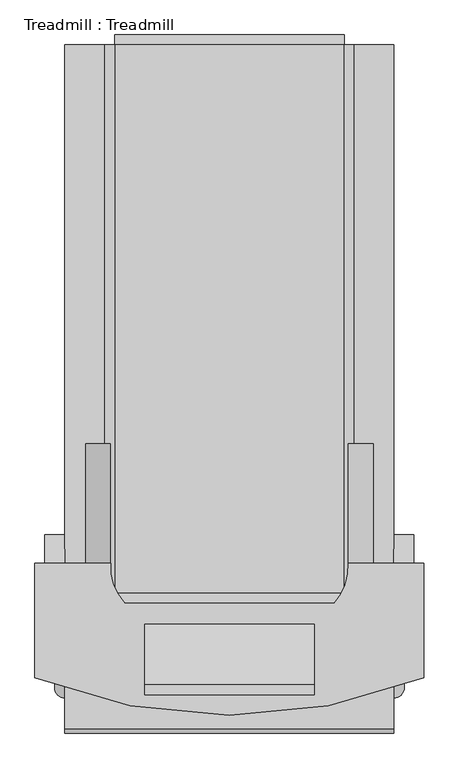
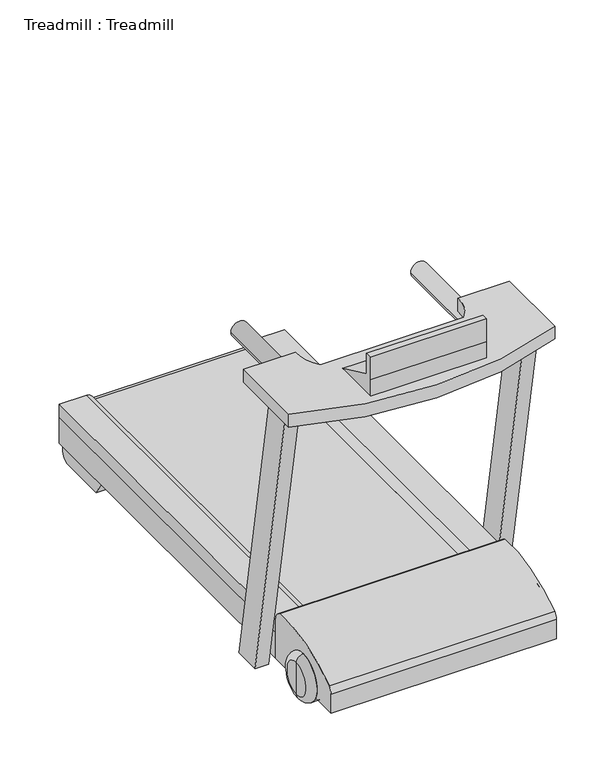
"""IFC4 building model written with IfcOpenShell, lengths in millimetres: proxy geometry, Treadmill : Treadmill."""

from ifc_helpers import new_model, si_unit, point, frame, frame_2d, origin, place, context, project, spatial, polyline, circle_curve, ellipse_curve, trimmed, segment, composite_curve, outline, extrude, source, transform, mapped, element, save
from ifc_brep_helpers import plane_surface, cylinder_surface, revolved_surface, advanced_brep


def treadmill_treadmill_b01bba42(model_context):
    return source(origin(), model_context, "Body", "SolidModel", [
        advanced_brep(
        [(838.2, 177.8, 88.9), (838.2, 177.8, 0.0), (838.2, 177.8, 177.8), (889.7314789, 177.8, 151.7399805), (889.7314789, 177.8, 26.0600195), (889.7314789, 177.8, 88.9), (863.6714594, 177.8, 177.8), (863.6714594, 177.8, 0.0)],
        [
            (0, 1),
            (1, 2, circle_curve(frame((838.2, 177.8, 88.9), z_axis=(-1.0, 0.0, 0.0), x_axis=(0.0, 0.0, -1.0)), 88.9)),
            (2, 0),
            (2, 1, circle_curve(frame((838.2, 177.8, 88.9), z_axis=(-1.0, 0.0, 0.0), x_axis=(0.0, 0.0, -1.0)), 88.9)),
            (3, 4, circle_curve(frame((889.7314789, 177.8, 88.9), z_axis=(1.0, 0.0, 0.0), x_axis=(0.0, 0.0, -1.0)), 62.8399805)),
            (4, 5),
            (5, 3),
            (4, 3, circle_curve(frame((889.7314789, 177.8, 88.9), z_axis=(1.0, 0.0, 0.0), x_axis=(0.0, 0.0, -1.0)), 62.8399805)),
            (6, 7, circle_curve(frame((863.6714594, 177.8, 88.9), z_axis=(1.0, 0.0, 0.0), x_axis=(0.0, 0.0, -1.0)), 88.9)),
            (7, 4, circle_curve(frame((863.6714594, 177.8, 26.0600195), z_axis=(0.0, -1.0, 0.0), x_axis=(0.0, 0.0, -1.0)), 26.0600195)),
            (3, 6, circle_curve(frame((863.6714594, 177.8, 151.7399805), z_axis=(0.0, -1.0, 0.0), x_axis=(0.0, 0.0, 1.0)), 26.0600195)),
            (7, 6, circle_curve(frame((863.6714594, 177.8, 88.9), z_axis=(1.0, 0.0, 0.0), x_axis=(0.0, 0.0, -1.0)), 88.9)),
            (1, 7),
            (6, 2),
        ],
        [
            plane_surface(frame((838.2, 177.8, 88.9), z_axis=(-1.0, 0.0, 0.0), x_axis=(0.0, 0.0, -1.0))),
            plane_surface(frame((889.7314789, 177.8, 88.9), z_axis=(1.0, 0.0, 0.0), x_axis=(0.0, 0.0, -1.0))),
            revolved_surface(trimmed(ellipse_curve(frame((863.6714594, 177.8, 26.0600195), z_axis=(0.0, 1.0, 0.0), x_axis=(0.0, 0.0, -1.0)), 26.0600195, 26.0600195), [point((889.7314789, 177.8, 26.0600195))], [point((863.6714594, 177.8, 0.0))], True, "CARTESIAN"), (889.7314789, 177.8, 88.9), (-1.0, 0.0, 0.0)),
            cylinder_surface(frame((889.7314789, 177.8, 88.9), z_axis=(-1.0, 0.0, 0.0), x_axis=(0.0, 0.0, -1.0)), 88.9),
        ],
        [
            (0, [[1, 2, 3]]),
            (0, [[-3, 4, -1]]),
            (1, [[5, 6, 7]]),
            (1, [[8, -7, -6]]),
            (2, [[9, 10, -5, 11]]),
            (2, [[12, -11, -8, -10]]),
            (3, [[-2, 13, -9, 14]]),
            (3, [[-4, -14, -12, -13]]),
        ],
    ),
        advanced_brep(
        [(25.3285406, 177.8, 177.8), (25.3285406, 177.8, 0.0), (50.8, 177.8, 0.0), (50.8, 177.8, 177.8), (-0.7314789, 177.8, 151.7399805), (-0.7314789, 177.8, 26.0600195), (-0.7314789, 177.8, 88.9), (50.8, 177.8, 88.9)],
        [
            (0, 1, circle_curve(frame((25.3285406, 177.8, 88.9), z_axis=(1.0, 0.0, 0.0), x_axis=(0.0, 0.0, -1.0)), 88.9)),
            (1, 2),
            (2, 3, circle_curve(frame((50.8, 177.8, 88.9), z_axis=(-1.0, 0.0, 0.0), x_axis=(0.0, 0.0, -1.0)), 88.9)),
            (3, 0),
            (1, 0, circle_curve(frame((25.3285406, 177.8, 88.9), z_axis=(1.0, 0.0, 0.0), x_axis=(0.0, 0.0, -1.0)), 88.9)),
            (3, 2, circle_curve(frame((50.8, 177.8, 88.9), z_axis=(-1.0, 0.0, 0.0), x_axis=(0.0, 0.0, -1.0)), 88.9)),
            (4, 5, circle_curve(frame((-0.7314789, 177.8, 88.9), z_axis=(1.0, 0.0, 0.0), x_axis=(0.0, 0.0, -1.0)), 62.8399805)),
            (5, 1, circle_curve(frame((25.3285406, 177.8, 26.0600195), z_axis=(0.0, -1.0, 0.0), x_axis=(0.0, 0.0, -1.0)), 26.0600195)),
            (0, 4, circle_curve(frame((25.3285406, 177.8, 151.7399805), z_axis=(0.0, -1.0, 0.0), x_axis=(0.0, 0.0, 1.0)), 26.0600195)),
            (5, 4, circle_curve(frame((-0.7314789, 177.8, 88.9), z_axis=(1.0, 0.0, 0.0), x_axis=(0.0, 0.0, -1.0)), 62.8399805)),
            (6, 5),
            (4, 6),
            (2, 7),
            (7, 3),
        ],
        [
            cylinder_surface(frame((-0.7314789, 177.8, 88.9), z_axis=(-1.0, 0.0, 0.0), x_axis=(0.0, 0.0, -1.0)), 88.9),
            revolved_surface(trimmed(ellipse_curve(frame((25.3285406, 177.8, 26.0600195), z_axis=(0.0, 1.0, 0.0), x_axis=(0.0, 0.0, -1.0)), 26.0600195, 26.0600195), [point((25.3285406, 177.8, 0.0))], [point((-0.7314789, 177.8, 26.0600195))], True, "CARTESIAN"), (-0.7314789, 177.8, 88.9), (-1.0, 0.0, 0.0)),
            plane_surface(frame((-0.7314789, 177.8, 88.9), z_axis=(-1.0, 0.0, 0.0), x_axis=(0.0, 0.0, -1.0))),
            plane_surface(frame((50.8, 177.8, 88.9), z_axis=(1.0, 0.0, 0.0), x_axis=(0.0, 0.0, -1.0))),
        ],
        [
            (0, [[1, 2, 3, 4]]),
            (0, [[5, -4, 6, -2]]),
            (1, [[7, 8, -1, 9]]),
            (1, [[10, -9, -5, -8]]),
            (2, [[11, -7, 12]]),
            (2, [[-12, -10, -11]]),
            (3, [[-3, 13, 14]]),
            (3, [[-6, -14, -13]]),
        ],
    ),
        extrude(outline(composite_curve([segment(polyline([(355.6, 152.4), (355.6, 177.8), (1752.6, 177.8)]), True, "CONTINUOUS"), segment(trimmed(circle_curve(frame_2d((1752.6, 152.4)), 25.4), [point((1752.6, 177.8))], [point((1752.6, 127.0))], False, "CARTESIAN"), True, "CONTINUOUS"), segment(polyline([(1752.6, 127.0), (1752.6, 152.4), (355.6, 152.4)]), True, "CONTINUOUS")], self_intersect=False)), frame((152.4, 0.0, 0.0), z_axis=(1.0, 0.0, 0.0), x_axis=(0.0, 1.0, 0.0)), (0.0, 0.0, 1.0), 584.2),
        extrude(outline(composite_curve([segment(polyline([(356.6198638, 50.8), (0.0, 50.8), (0.0, 127.0)]), True, "CONTINUOUS"), segment(trimmed(circle_curve(frame_2d((36.1581881, 127.0)), 36.1581881), [point((0.0, 127.0))], [point((10.4238809, 152.4))], False, "CARTESIAN"), True, "CONTINUOUS"), segment(trimmed(circle_curve(frame_2d((289.1455701, -230.6771793)), 473.744557), [point((10.4238809, 152.4))], [point((330.6373426, 241.2469016))], False, "CARTESIAN"), True, "CONTINUOUS"), segment(trimmed(circle_curve(frame_2d((319.002006, 205.4588927)), 37.6319364), [point((330.6373426, 241.2469016))], [point((356.6198638, 204.4296136))], False, "CARTESIAN"), True, "CONTINUOUS"), segment(polyline([(356.6198638, 204.4296136), (356.6198638, 50.8)]), True, "CONTINUOUS")], self_intersect=False)), frame((25.4, 0.0, 0.0), z_axis=(1.0, 0.0, 0.0), x_axis=(0.0, 1.0, 0.0)), (0.0, 0.0, 1.0), 838.2),
        extrude(outline(composite_curve([segment(polyline([(152.4, 152.4), (177.8, 152.4)]), True, "CONTINUOUS"), segment(trimmed(circle_curve(frame_2d((177.8, 127.0)), 25.4), [point((177.8, 152.4))], [point((203.2, 127.0))], False, "CARTESIAN"), True, "CONTINUOUS"), segment(polyline([(203.2, 127.0), (203.2, 25.4), (152.4, 25.4), (50.8, 25.4), (50.8, 863.6), (152.4, 863.6), (203.2, 863.6), (203.2, 762.0)]), True, "CONTINUOUS"), segment(trimmed(circle_curve(frame_2d((177.8, 762.0)), 25.4), [point((203.2, 762.0))], [point((177.8, 736.6))], False, "CARTESIAN"), True, "CONTINUOUS"), segment(polyline([(177.8, 736.6), (152.4, 736.6), (152.4, 152.4)]), True, "CONTINUOUS")], self_intersect=False)), frame((0.0, 355.6, 0.0), z_axis=(0.0, 1.0, 0.0), x_axis=(0.0, 0.0, 1.0)), (0.0, 0.0, 1.0), 1397.0),
        extrude(outline(polyline([(122.6746955, 1240.8350591), (277.1099218, 1168.4), (97.2746955, 1168.4), (97.2746955, 1231.9), (97.2746955, 1320.8), (122.6746955, 1320.8), (122.6746955, 1240.8350591)])), frame((228.6, 0.0, 0.0), z_axis=(1.0, 0.0, 0.0), x_axis=(0.0, 1.0, 0.0)), (0.0, 0.0, 1.0), 431.8),
        advanced_brep(
        [(78.1863004, 736.6, 1085.0214532), (141.6863004, 736.6, 1085.0214532), (78.1863004, 229.0227686, 1085.0214532), (141.6863004, 255.3253298, 1085.0214532), (128.3884153, 178.8206537, 1085.0214532), (154.6909766, 242.3206537, 1085.0214532), (760.6115847, 178.8206537, 1085.0214532), (734.3090234, 242.3206537, 1085.0214532), (810.8136996, 229.0227686, 1085.0214532), (747.3136996, 255.3253298, 1085.0214532), (810.8136996, 736.6, 1085.0214532), (747.3136996, 736.6, 1085.0214532)],
        [
            (0, 1, circle_curve(frame((109.9363004, 736.6, 1085.0214532), z_axis=(0.0, 1.0, 0.0), x_axis=(1.0, 0.0, 0.0)), 31.75)),
            (1, 0, circle_curve(frame((109.9363004, 736.6, 1085.0214532), z_axis=(0.0, 1.0, 0.0), x_axis=(1.0, 0.0, 0.0)), 31.75)),
            (0, 2),
            (2, 3, ellipse_curve(frame((109.9363004, 242.1740492, 1085.0214532), z_axis=(-0.382683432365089, 0.9238795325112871, 0.0), x_axis=(0.9238795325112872, 0.3826834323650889, 0.0)), 34.3659524, 31.75)),
            (3, 1),
            (3, 2, ellipse_curve(frame((109.9363004, 242.1740492, 1085.0214532), z_axis=(-0.382683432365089, 0.9238795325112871, 0.0), x_axis=(0.9238795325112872, 0.3826834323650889, 0.0)), 34.3659524, 31.75)),
            (2, 4),
            (4, 5, ellipse_curve(frame((141.5396959, 210.5706537, 1085.0214532), z_axis=(-0.9238795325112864, 0.3826834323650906, 0.0), x_axis=(0.38268343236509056, 0.9238795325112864, 0.0)), 34.3659524, 31.75)),
            (5, 3),
            (5, 4, ellipse_curve(frame((141.5396959, 210.5706537, 1085.0214532), z_axis=(-0.9238795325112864, 0.3826834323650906, 0.0), x_axis=(0.38268343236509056, 0.9238795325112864, 0.0)), 34.3659524, 31.75)),
            (4, 6),
            (6, 7, ellipse_curve(frame((747.4603041, 210.5706537, 1085.0214532), z_axis=(-0.9238795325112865, -0.3826834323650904, 0.0), x_axis=(-0.38268343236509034, 0.9238795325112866, 0.0)), 34.3659524, 31.75)),
            (7, 5),
            (7, 6, ellipse_curve(frame((747.4603041, 210.5706537, 1085.0214532), z_axis=(-0.9238795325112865, -0.3826834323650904, 0.0), x_axis=(-0.38268343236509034, 0.9238795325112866, 0.0)), 34.3659524, 31.75)),
            (6, 8),
            (8, 9, ellipse_curve(frame((779.0636996, 242.1740492, 1085.0214532), z_axis=(-0.3826834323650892, -0.923879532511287, 0.0), x_axis=(-0.923879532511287, 0.38268343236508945, 0.0)), 34.3659524, 31.75)),
            (9, 7),
            (9, 8, ellipse_curve(frame((779.0636996, 242.1740492, 1085.0214532), z_axis=(-0.3826834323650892, -0.923879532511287, 0.0), x_axis=(-0.923879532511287, 0.38268343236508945, 0.0)), 34.3659524, 31.75)),
            (10, 11, circle_curve(frame((779.0636996, 736.6, 1085.0214532), z_axis=(0.0, 1.0, 0.0), x_axis=(-1.0, 0.0, 0.0)), 31.75)),
            (11, 10, circle_curve(frame((779.0636996, 736.6, 1085.0214532), z_axis=(0.0, 1.0, 0.0), x_axis=(-1.0, 0.0, 0.0)), 31.75)),
            (8, 10),
            (11, 9),
        ],
        [
            plane_surface(frame((-1038.8645002, 736.6, 0.0), z_axis=(0.0, 1.0, 0.0), x_axis=(0.0, 0.0, -1.0))),
            cylinder_surface(frame((109.9363004, 736.6, 1085.0214532), z_axis=(0.0, 1.0, 0.0), x_axis=(1.0, 0.0, 0.0)), 31.75),
            cylinder_surface(frame((100.3379982, 251.7723515, 1085.0214532), z_axis=(-0.7071067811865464, 0.7071067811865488, 0.0), x_axis=(0.7071067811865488, 0.7071067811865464, 0.0)), 31.75),
            cylinder_surface(frame((127.9656467, 210.5706537, 1085.0214532), z_axis=(-1.0, 0.0, 0.0), x_axis=(0.0, 1.0, 0.0)), 31.75),
            cylinder_surface(frame((737.8620018, 200.9723515, 1085.0214532), z_axis=(-0.7071067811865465, -0.7071067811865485, 0.0), x_axis=(-0.7071067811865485, 0.7071067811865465, 0.0)), 31.75),
            plane_surface(frame((-304.1957937, 736.6, 0.0), z_axis=(0.0, 1.0, 0.0), x_axis=(0.0, 0.0, 1.0))),
            cylinder_surface(frame((779.0636996, 228.6, 1085.0214532), z_axis=(0.0, -1.0, 0.0), x_axis=(-1.0, 0.0, 0.0)), 31.75),
        ],
        [
            (0, [[1, 2]]),
            (1, [[-1, 3, 4, 5]]),
            (1, [[-2, -5, 6, -3]]),
            (2, [[-4, 7, 8, 9]]),
            (2, [[-6, -9, 10, -7]]),
            (3, [[-8, 11, 12, 13]]),
            (3, [[-10, -13, 14, -11]]),
            (4, [[-12, 15, 16, 17]]),
            (4, [[-14, -17, 18, -15]]),
            (5, [[19, 20]]),
            (6, [[-16, 21, -20, 22]]),
            (6, [[-18, -22, -19, -21]]),
        ],
    ),
        extrude(outline(composite_curve([segment(polyline([(-50.8, 141.347801), (-50.8, 432.8198638), (142.1724844, 432.8198638)]), True, "CONTINUOUS"), segment(trimmed(circle_curve(frame_2d((276.1196867, 422.2461786)), 134.3638933), [point((142.1724844, 432.8198638))], [point((177.8268743, 330.6373426))], True, "CARTESIAN"), True, "CONTINUOUS"), segment(polyline([(177.8268743, 330.6373426), (711.1731257, 330.6373426)]), True, "CONTINUOUS"), segment(trimmed(circle_curve(frame_2d((612.8803133, 422.2461786)), 134.3638933), [point((711.1731257, 330.6373426))], [point((746.8275156, 432.8198638))], True, "CARTESIAN"), True, "CONTINUOUS"), segment(polyline([(746.8275156, 432.8198638), (939.8, 432.8198638), (939.8, 141.347801)]), True, "CONTINUOUS"), segment(trimmed(circle_curve(frame_2d((444.5, 1366.4086936)), 1321.3993645), [point((939.8, 141.347801))], [point((-50.8, 141.347801))], False, "CARTESIAN"), True, "CONTINUOUS")], self_intersect=False)), frame((0.0, 0.0, 1117.6), z_axis=(0.0, 0.0, 1.0), x_axis=(1.0, 0.0, 0.0)), (0.0, 0.0, 1.0), 50.8),
        extrude(outline(polyline([(204.732057, 1117.6), (307.8994008, 1117.6), (504.9624344, 0.0), (401.7950906, 0.0), (204.732057, 1117.6)])), frame((-25.4, 0.0, 0.0), z_axis=(1.0, 0.0, 0.0), x_axis=(0.0, 1.0, 0.0)), (0.0, 0.0, 1.0), 50.8),
        extrude(outline(polyline([(204.732057, 1117.6), (307.8994008, 1117.6), (504.9624344, 0.0), (401.7950906, 0.0), (204.732057, 1117.6)])), frame((863.6, 0.0, 0.0), z_axis=(1.0, 0.0, 0.0), x_axis=(0.0, 1.0, 0.0)), (0.0, 0.0, 1.0), 50.8),
        extrude(outline(composite_curve([segment(polyline([(1514.6655035, 0.0), (1483.7010673, 50.8), (1731.2449893, 50.8), (1731.2449893, 38.1)]), True, "CONTINUOUS"), segment(trimmed(circle_curve(frame_2d((1693.1449893, 38.1)), 38.1), [point((1731.2449893, 38.1))], [point((1693.1449893, 0.0))], False, "CARTESIAN"), True, "CONTINUOUS"), segment(polyline([(1693.1449893, 0.0), (1514.6655035, 0.0)]), True, "CONTINUOUS")], self_intersect=False)), frame((25.4, 0.0, 0.0), z_axis=(1.0, 0.0, 0.0), x_axis=(0.0, 1.0, 0.0)), (0.0, 0.0, 1.0), 838.2),
    ])


if __name__ == "__main__":
    model = new_model("IFC4")
    model_context = context("Model", 3, world=origin())
    ifc_project = project(units=[si_unit("LENGTHUNIT", "METRE", prefix="MILLI")], contexts=[model_context])
    site = spatial("IfcSite", under=ifc_project)
    building = spatial("IfcBuilding", under=site)
    placement = place(None, origin())
    treadmill_treadmill_shape = treadmill_treadmill_b01bba42(model_context)
    element("IfcBuildingElementProxy", 1, Name="Treadmill : Treadmill", ObjectType="Treadmill : Treadmill", at=placement, inside=building, context=model_context, shape_type="MappedRepresentation", body=[
        mapped(treadmill_treadmill_shape, transform((0.0, 0.0, 0.0), x_axis=(1.0, 0.0, 0.0), y_axis=(0.0, 1.0, 0.0), z_axis=(0.0, 0.0, 1.0))),
    ])
    save(model, "model.ifc")
